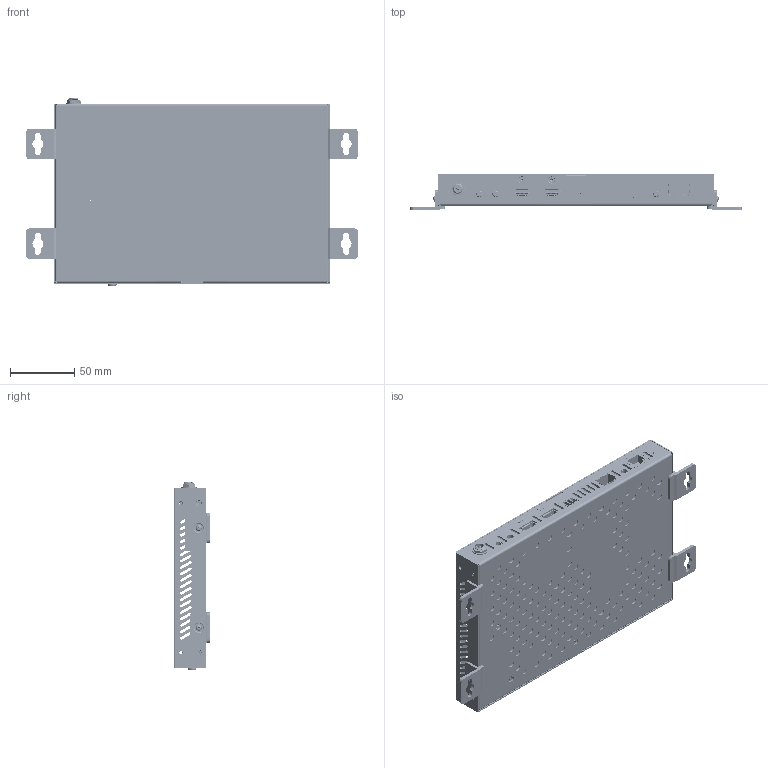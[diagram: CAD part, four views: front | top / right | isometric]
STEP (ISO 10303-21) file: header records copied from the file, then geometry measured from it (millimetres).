
FILE_DESCRIPTION((''),'2;1');
FILE_NAME('00-IP6000AS-000_ASM_14_ASM_1_ASM','2023-05-08T',('Xutangren'),(''),'PRO/ENGINEER BY PARAMETRIC TECHNOLOGY CORPORATION, 2010280','PRO/ENGINEER BY PARAMETRIC TECHNOLOGY CORPORATION, 2010280','');
FILE_SCHEMA(('AUTOMOTIVE_DESIGN_CC2 { 1 2 10303 214 -1 1 5 2 }'));
Products named in the file (38): IP6000AS-000-COVER_48_1; IP6000AS-000-COVER_ASM_1_ASM_1_ASM; IPE6000AS-000-BASE_56_1; SO4_3_5M3_L5_4_1; IP6000AS-000-BASE_ASM_12_ASM_1_ASM; IP6000AS-000-PCB_28_1; MANIFOLD_SOLID_BREP_72739_1; MANIFOLD_SOLID_BREP_73313_1; MANIFOLD_SOLID_BREP_73821_1; DC_H0100DC001200_1_ASM_1_ASM; DC_GASKET_1_1; DC_NUT_1_1; DC_SCREW_ASM_1_ASM_1_ASM; IR_H0400PJ301100_1_1; OP_H0900R8281100_4_1; RJ45_H060097428800_1_1; USB_H1200000VD000_1_1; LED_TIEPIAN_1_1; MANIFOLD_SOLID_BREP_89511_1; MANIFOLD_SOLID_BREP_89941_1; MANIFOLD_SOLID_BREP_90371_1; MANIFOLD_SOLID_BREP_90801_1; MANIFOLD_SOLID_BREP_91235_1; MANIFOLD_SOLID_BREP_91669_1; RJ45_H0600AQXN3F13_1_ASM_1_ASM; LIANJIEQI-MUTOU_2_1; USB_H1206000HD000_1_1; KFC_M0800GB169700_1_1; KFC_J0201V0730600_1_1; PHOENIX3-3_5_H140310FHD000_1_1; HDMI_H000019PFS000_2_1; IP6000AS-000-PCBA_ASM_43_ASM_1_ASM; XIAO-PCB_1_1; M0400PA015000_1; M1400M25L0500_M2_5_L5_BLACK_1; M1400M25L5000_M2_5_L5_BLACK_1; M140000M3L503_M3_L5_BLACK; 00-IP6000AS-000_ASM_14_ASM_1_ASM
Assembly tree (64 placements, depth 5):
  00-IP6000AS-000_ASM_14_ASM_1_ASM
    IP6000AS-000-COVER_ASM_1_ASM_1_ASM
      IP6000AS-000-COVER_48_1
    IP6000AS-000-BASE_ASM_12_ASM_1_ASM
      IPE6000AS-000-BASE_56_1
      SO4_3_5M3_L5_4_1  x5
    IP6000AS-000-PCBA_ASM_43_ASM_1_ASM
      IP6000AS-000-PCB_28_1
      DC_SCREW_ASM_1_ASM_1_ASM
        DC_H0100DC001200_1_ASM_1_ASM
          MANIFOLD_SOLID_BREP_72739_1
          MANIFOLD_SOLID_BREP_73313_1
          MANIFOLD_SOLID_BREP_73821_1
        DC_GASKET_1_1
        DC_NUT_1_1
      IR_H0400PJ301100_1_1  x3
      OP_H0900R8281100_4_1
      RJ45_H060097428800_1_1
      USB_H1200000VD000_1_1
      LED_TIEPIAN_1_1  x8
      RJ45_H0600AQXN3F13_1_ASM_1_ASM
        MANIFOLD_SOLID_BREP_89511_1
        MANIFOLD_SOLID_BREP_89941_1
        MANIFOLD_SOLID_BREP_90371_1
        MANIFOLD_SOLID_BREP_90801_1
        MANIFOLD_SOLID_BREP_91235_1
        MANIFOLD_SOLID_BREP_91669_1
      LIANJIEQI-MUTOU_2_1  x2
      USB_H1206000HD000_1_1  x2
      KFC_M0800GB169700_1_1
      KFC_J0201V0730600_1_1
      PHOENIX3-3_5_H140310FHD000_1_1
      HDMI_H000019PFS000_2_1  x2
    XIAO-PCB_1_1
    M0400PA015000_1  x4
    M1400M25L0500_M2_5_L5_BLACK_1  x5
    M1400M25L5000_M2_5_L5_BLACK_1  x4
    M140000M3L503_M3_L5_BLACK  x2
Bounding box: 258 x 28.5 x 145.9 mm (x, y, z)
Volume: 138396 mm3; surface area: 241953.2 mm2
Topology: 58 solids, 63 shells, 6179 faces, 17529 edges, 11498 vertices
Faces by surface type: plane 3462, cylinder 2216, bspline 227, cone 161, torus 70, extrusion 29, sphere 10, revolution 4
Entity records: 161511 total; most frequent: CARTESIAN_POINT 38659, ORIENTED_EDGE 22552, DIRECTION 22540, EDGE_CURVE 11278, AXIS2_PLACEMENT_3D 7628, VERTEX_POINT 7391, VECTOR 7280, LINE 7251
